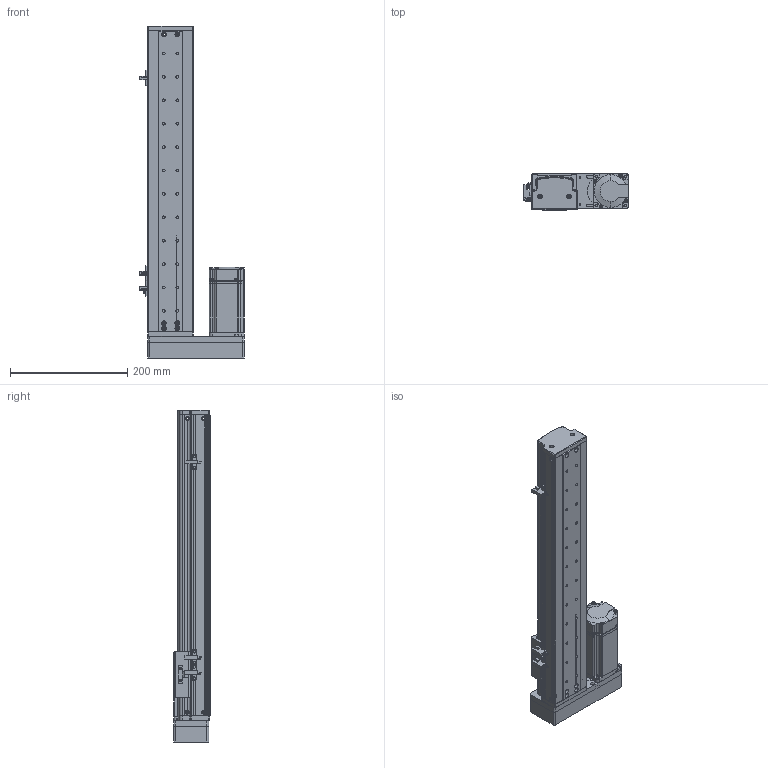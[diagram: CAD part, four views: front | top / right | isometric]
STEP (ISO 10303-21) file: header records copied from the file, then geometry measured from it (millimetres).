
FILE_DESCRIPTION (( 'STEP AP214' ), '1' );
FILE_NAME ('KSD75S-S360-ML-CM.STEP', '2019-10-18T06:55:53', ( '微软用户' ), ( '微软中国' ), 'SwSTEP 2.0', 'SolidWorks 2014', '' );
FILE_SCHEMA (( 'AUTOMOTIVE_DESIGN' ));
Length unit declared in the file: millimetre
Products named in the file (13): 360俴最; KSD75S-S360-ML-CM; 75遵賑雄釱; MGW15H賑寢360俴最 ; MHMD042G1CA_2_03; ヶ傷啣; U倰嫖萇EEㄜSX672; 覜茼え100遵圉猾敕; 75裔啣-360俴最; 75宽马达安装板连板左右折丝杆; 綴傷啣 ; 75宽模组保护罩左右折; 75遵耀郪耜啣-360俴最
Assembly tree (15 placements, depth 3):
  KSD75S-S360-ML-CM
    MGW15H賑寢360俴最 
      360俴最
    75遵賑雄釱
    75遵耀郪耜啣-360俴最  x2
    75裔啣-360俴最
    ヶ傷啣
    綴傷啣 
    U倰嫖萇EEㄜSX672  x3
    覜茼え100遵圉猾敕
    75宽马达安装板连板左右折丝杆
    75宽模组保护罩左右折
    MHMD042G1CA_2_03
Bounding box: 178.7 x 63 x 567.5 mm (x, y, z)
Volume: 798521.8 mm3; surface area: 501764 mm2
Topology: 13 solids, 14 shells, 1453 faces, 4114 edges, 2685 vertices
Faces by surface type: cylinder 683, plane 623, cone 129, bspline 18
Entity records: 46610 total; most frequent: CARTESIAN_POINT 8868, DIRECTION 6944, ORIENTED_EDGE 6508, EDGE_CURVE 3325, AXIS2_PLACEMENT_3D 2540, VERTEX_POINT 2203, LINE 1864, VECTOR 1864
